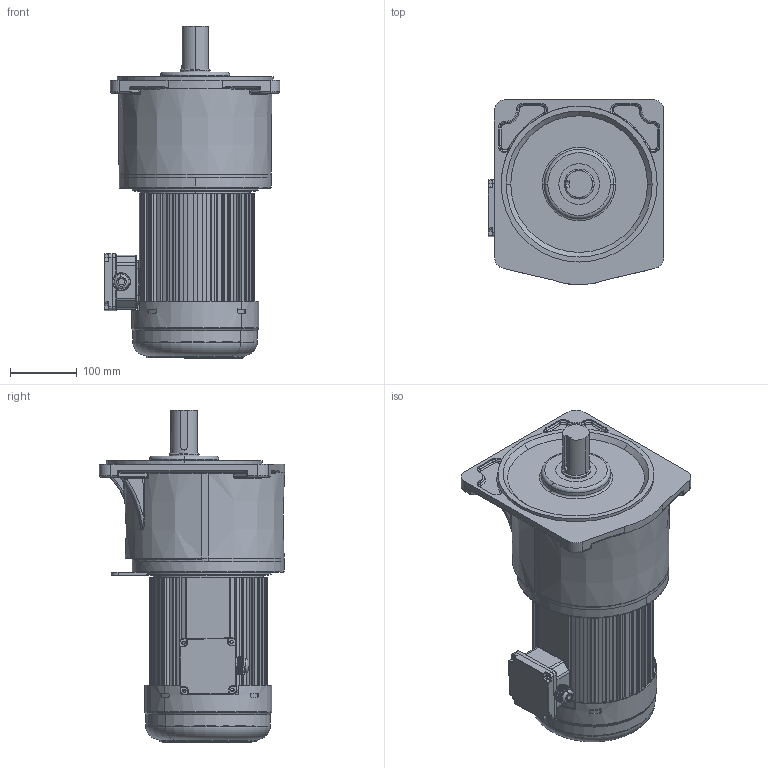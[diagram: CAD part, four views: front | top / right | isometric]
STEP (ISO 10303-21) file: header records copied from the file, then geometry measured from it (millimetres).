
FILE_DESCRIPTION (( 'STEP AP203' ), '1' );
FILE_NAME ('5#li.STEP', '2020-04-13T09:10:25', ( 'china' ), ( 'china' ), 'SwSTEP 2.0', 'SolidWorks 2019', '' );
FILE_SCHEMA (( 'CONFIG_CONTROL_DESIGN' ));
Length unit declared in the file: millimetre
Products named in the file (10): 1500W綴傷裔; 瑞欶; 蜊輛綴諉盄碟釱3; 諉芛; 怀堤粣; 蜊輛綴諉盄碟裔3; 5-1500w2200wxianggai; 5-lishixiangti; 1500W儂褲; 5#li
Assembly tree (9 placements, depth 2):
  5#li
    怀堤粣
    5-1500w2200wxianggai
    1500W儂褲
    1500W綴傷裔
    瑞欶
    蜊輛綴諉盄碟釱3
    諉芛
    蜊輛綴諉盄碟裔3
    5-lishixiangti
Bounding box: 263.61 x 277.99 x 497.95 mm (x, y, z)
Volume: 3556889.3 mm3; surface area: 1206513.1 mm2
Topology: 9 solids, 20 shells, 3759 faces, 9788 edges, 6105 vertices
Faces by surface type: plane 1335, cylinder 1237, bspline 665, torus 352, cone 128, sphere 42
Entity records: 159350 total; most frequent: CARTESIAN_POINT 70077, ORIENTED_EDGE 19430, DIRECTION 17245, EDGE_CURVE 9715, AXIS2_PLACEMENT_3D 6315, VERTEX_POINT 6090, LINE 4615, VECTOR 4615
